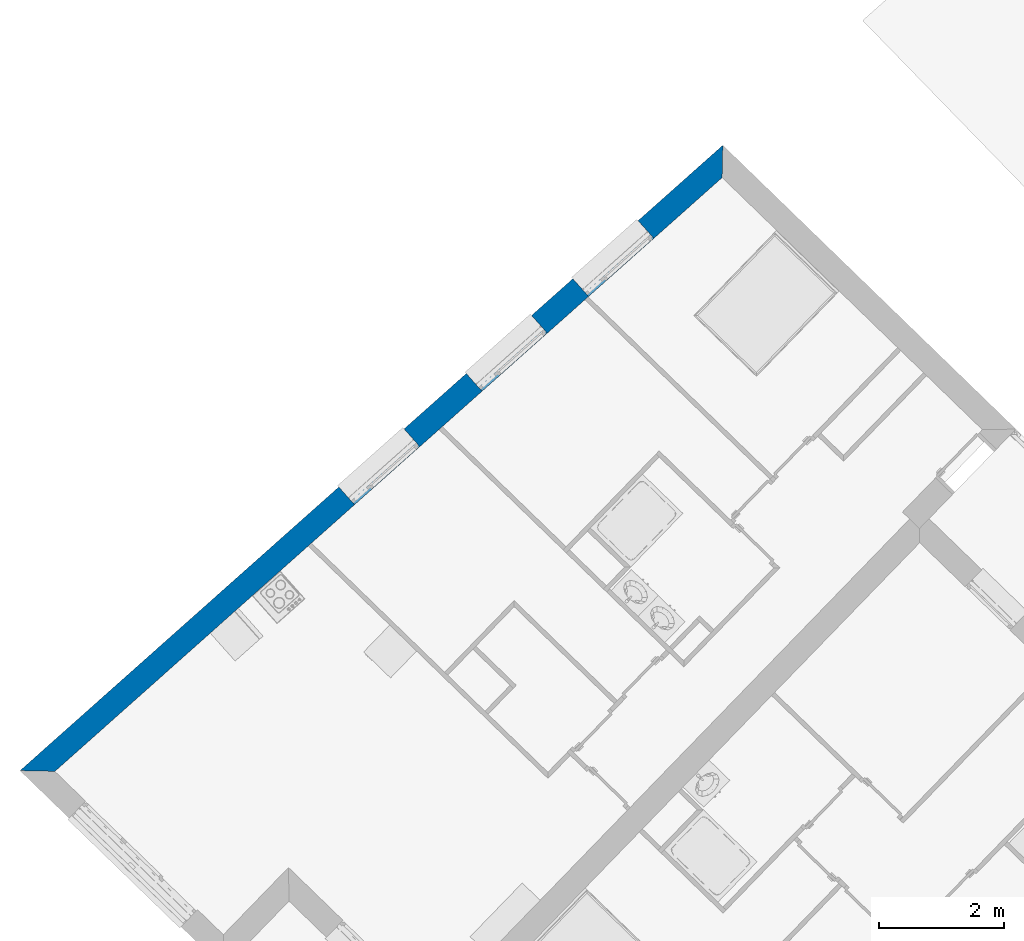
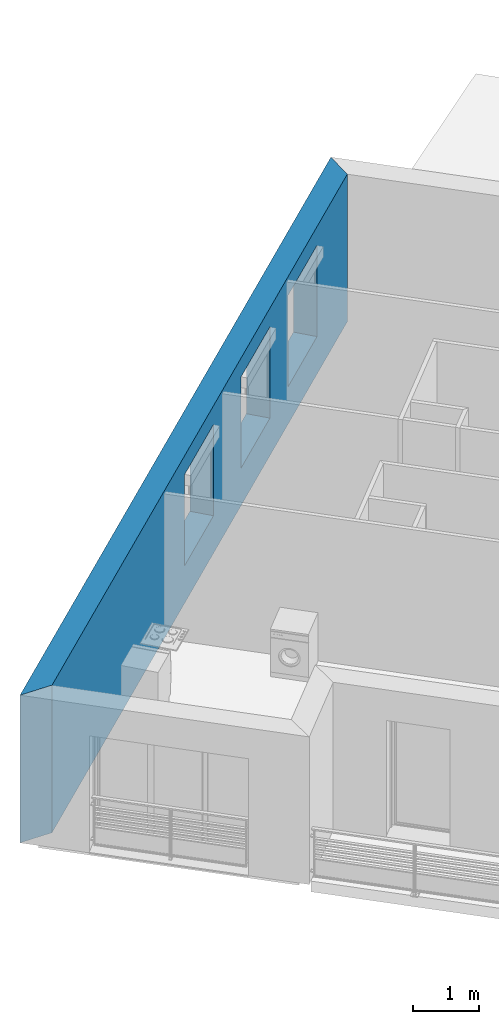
# One storey, part 14 of 121: 1 wall, 3 openings.
"""IFC2X3 building model written with IfcOpenShell, lengths in metres."""

import ifcopenshell
import ifcopenshell.guid

model = None  # the IFC model being written
_history = None  # IfcOwnerHistory: only IFC2X3 demands one
_inside = {}  # id of a spatial element -> (the spatial element, [elements in it])
_under = {}  # id of a project, library or spatial element -> (it, [spatial elements below it])
_declared = {}  # id of a project -> (the project, [libraries it declares])
_typed = {}  # id of a type object -> (the type object, [elements of that type])
_made_of = {}  # id of a material, layer set ... -> (it, [elements and type objects made of it])


def new_model(schema):
    """Start an empty IFC model of exactly this schema.

    Asked for "IFC4X3", IfcOpenShell would pick the latest addendum, in which some entities
    have other attributes; the version numbers below select the first issue.
    IFC2X3 requires an IfcOwnerHistory on every rooted entity: one is made here for all.
    """
    global model, _history
    if schema == "IFC4X3":
        model = ifcopenshell.file(schema_version=(4, 3, 0, 0))
    else:
        model = ifcopenshell.file(schema=schema)
    _inside.clear()
    _under.clear()
    _declared.clear()
    _typed.clear()
    _made_of.clear()
    _history = None
    if model.schema == "IFC2X3":
        org = make("IfcOrganization", Name="unknown")
        user = make(
            "IfcPersonAndOrganization",
            ThePerson=make("IfcPerson", FamilyName="unknown"),
            TheOrganization=org,
        )
        app = make(
            "IfcApplication",
            ApplicationDeveloper=org,
            Version="unknown",
            ApplicationFullName="unknown",
            ApplicationIdentifier="unknown",
        )
        _history = make(
            "IfcOwnerHistory",
            OwningUser=user,
            OwningApplication=app,
            ChangeAction="ADDED",
            CreationDate=0,
        )
    return model


def make(cls, **values):
    """One entity of the class cls with the attributes given. An attribute that is None is left unset."""
    return model.create_entity(
        cls, **{name: value for name, value in values.items() if value is not None}
    )


def entity(cls, *values):
    """Any entity or typed value of the class cls, its attributes in the order of the schema. None: left unset."""
    e = model.create_entity(cls)
    for i, value in enumerate(values):
        if value is not None:
            e[i] = value
    return e


def rooted(cls, **values):
    """An entity with a GlobalId (a new one), such as an element, a storey or a relation."""
    return make(cls, GlobalId=ifcopenshell.guid.new(), OwnerHistory=_history, **values)


def si_unit(unit_type, name, prefix=None):
    """IfcSIUnit, for example si_unit("LENGTHUNIT", "METRE", prefix="MILLI")."""
    return make("IfcSIUnit", UnitType=unit_type, Prefix=prefix, Name=name)


def converted_unit(unit_type, name, factor, base, dimensions=None, offset=None):
    """IfcConversionBasedUnit, such as the inch: factor (a typed value) times the base unit."""
    return make(
        "IfcConversionBasedUnit"
        if offset is None
        else "IfcConversionBasedUnitWithOffset",
        ConversionOffset=offset,
        Dimensions=None
        if dimensions is None
        else entity("IfcDimensionalExponents", *dimensions),
        UnitType=unit_type,
        Name=name,
        ConversionFactor=make(
            "IfcMeasureWithUnit", ValueComponent=factor, UnitComponent=base
        ),
    )


def derived_unit(unit_type, elements):
    """IfcDerivedUnit: a product of units, each with its exponent."""
    return make(
        "IfcDerivedUnit",
        Elements=[
            make("IfcDerivedUnitElement", Unit=unit, Exponent=power)
            for unit, power in elements
        ],
        UnitType=unit_type,
    )


def money_unit(currency):
    """IfcMonetaryUnit."""
    return make("IfcMonetaryUnit", Currency=currency)


def assignment(units):
    """IfcUnitAssignment: the units of a project."""
    return None if units is None else make("IfcUnitAssignment", Units=units)


def point(xyz):
    """IfcCartesianPoint."""
    return None if xyz is None else make("IfcCartesianPoint", Coordinates=xyz)


def direction(xyz):
    """IfcDirection."""
    return None if xyz is None else make("IfcDirection", DirectionRatios=xyz)


def frame(location, z_axis=None, x_axis=None):
    """IfcAxis2Placement3D, a coordinate frame: its origin and axes. An axis left out is left unset."""
    return make(
        "IfcAxis2Placement3D",
        Location=point(location),
        Axis=direction(z_axis),
        RefDirection=direction(x_axis),
    )


def origin_with_axes():
    """The frame at (0, 0, 0) with the z axis (0, 0, 1) and the x axis (1, 0, 0) written out."""
    return frame((0.0, 0.0, 0.0), z_axis=(0.0, 0.0, 1.0), x_axis=(1.0, 0.0, 0.0))


def place(relative_to, where):
    """IfcLocalPlacement: puts the frame where relative to a parent placement (None: the world)."""
    return make(
        "IfcLocalPlacement", PlacementRelTo=relative_to, RelativePlacement=where
    )


def context(
    kind, dimensions, precision=None, world=None, true_north=None, identifier=None
):
    """IfcGeometricRepresentationContext, for example the 3D "Model" context."""
    return make(
        "IfcGeometricRepresentationContext",
        ContextIdentifier=identifier,
        ContextType=kind,
        CoordinateSpaceDimension=dimensions,
        Precision=precision,
        WorldCoordinateSystem=world,
        TrueNorth=true_north,
    )


def subcontext(parent, identifier, kind, view, scale=None):
    """IfcGeometricRepresentationSubContext, for example "Body" below "Model"."""
    return make(
        "IfcGeometricRepresentationSubContext",
        ContextIdentifier=identifier,
        ContextType=kind,
        ParentContext=parent,
        TargetScale=scale,
        TargetView=view,
    )


def project(units=None, contexts=None):
    """IfcProject with its units and contexts."""
    return rooted(
        "IfcProject",
        Name="project",
        RepresentationContexts=contexts,
        UnitsInContext=assignment(units),
    )


def spatial(cls, under=None, at=None, **own):
    """A site, building, storey or space (cls), placed at a placement, below another one or the project."""
    s = rooted(cls, ObjectPlacement=at, **own)
    if under is not None:
        _under.setdefault(under.id(), (under, []))[1].append(s)
    return s


def polyline(points):
    """IfcPolyline through the points."""
    return make("IfcPolyline", Points=[point(p) for p in points])


def outline(outer, holes=None, kind="AREA"):
    """IfcArbitraryClosedProfileDef: a profile drawn as a closed curve; with holes, ...WithVoids."""
    if holes is None:
        return make("IfcArbitraryClosedProfileDef", ProfileType=kind, OuterCurve=outer)
    return make(
        "IfcArbitraryProfileDefWithVoids",
        ProfileType=kind,
        OuterCurve=outer,
        InnerCurves=holes,
    )


def extrude(swept, where, along, depth):
    """IfcExtrudedAreaSolid: the profile swept, set in the frame where, extruded along a direction by depth."""
    return make(
        "IfcExtrudedAreaSolid",
        SweptArea=swept,
        Position=where,
        ExtrudedDirection=direction(along),
        Depth=depth,
    )


def faces_of(points, faces, orient=None, outer=None):
    """IfcFace entities. A face is a list of loops; a loop is a list of indices into points, from 0.

    orient and outer hold one flag for each loop. By default every Orientation is true, the
    first loop of a face is its IfcFaceOuterBound and the others are IfcFaceBound.
    """
    made = []
    for i, loops in enumerate(faces):
        bounds = []
        for j, loop in enumerate(loops):
            is_outer = j == 0 if outer is None else outer[i][j]
            bounds.append(
                make(
                    "IfcFaceOuterBound" if is_outer else "IfcFaceBound",
                    Bound=make("IfcPolyLoop", Polygon=[points[k] for k in loop]),
                    Orientation=True if orient is None else orient[i][j],
                )
            )
        made.append(make("IfcFace", Bounds=bounds))
    return made


def faceted_brep(points, faces, orient=None, outer=None, voids=None):
    """IfcFacetedBrep: a solid bounded by flat faces; with voids (closed shells), ...WithVoids."""
    shared = [point(p) for p in points]
    hull = make("IfcClosedShell", CfsFaces=faces_of(shared, faces, orient, outer))
    if voids is None:
        return make("IfcFacetedBrep", Outer=hull)
    return make(
        "IfcFacetedBrepWithVoids",
        Outer=hull,
        Voids=[
            make(cls, CfsFaces=faces_of(shared, fs, o, b)) for cls, fs, o, b in voids
        ],
    )


def shape(context_of_items, identifier, shape_type, items):
    """IfcShapeRepresentation: the items that make up one representation, for example the "Body"."""
    return make(
        "IfcShapeRepresentation",
        ContextOfItems=context_of_items,
        RepresentationIdentifier=identifier,
        RepresentationType=shape_type,
        Items=items,
    )


def material(Name=None, Category=None):
    """IfcMaterial."""
    return make("IfcMaterial", Name=Name, Category=Category)


def layer(
    of_material, thickness, ventilated=None, Name=None, Category=None, Priority=None
):
    """IfcMaterialLayer: one layer of a wall or slab, of a material (None: an air gap)."""
    return make(
        "IfcMaterialLayer",
        Material=of_material,
        LayerThickness=thickness,
        IsVentilated=ventilated,
        Name=Name,
        Category=Category,
        Priority=Priority,
    )


def layer_set(layers, Name=None):
    """IfcMaterialLayerSet."""
    return make("IfcMaterialLayerSet", MaterialLayers=layers, LayerSetName=Name)


def layer_usage(for_layer_set, set_direction, sense, offset, extent=None):
    """IfcMaterialLayerSetUsage: how a layer set lies in its element."""
    return make(
        "IfcMaterialLayerSetUsage",
        ForLayerSet=for_layer_set,
        LayerSetDirection=set_direction,
        DirectionSense=sense,
        OffsetFromReferenceLine=offset,
        ReferenceExtent=extent,
    )


def made_of(thing, what):
    """Note that an element or type object is made of a material, layer set ...; save() writes the relation."""
    if what is not None:
        _made_of.setdefault(what.id(), (what, []))[1].append(thing)
    return thing


def type_object(cls, material=None, **own):
    """A type object (cls), such as IfcWallType, which elements share."""
    return made_of(rooted(cls, **own), material)


def element(
    cls,
    number,
    at=None,
    inside=None,
    cuts=None,
    type_object=None,
    material=None,
    context=None,
    identifier="Body",
    shape_type=None,
    held_by="IfcProductDefinitionShape",
    body=None,
    shapes=None,
    **own,
):
    """One element of the class cls, such as IfcWall. Its Tag is "e" and its number.

    at: its placement. inside: the storey or other place that contains it. cuts: it is an
    opening in that element (IfcRelVoidsElement). A single representation is given by context,
    identifier, shape_type and body (its items); several are given by shapes. held_by: the class
    of the entity that holds the representations. save() writes the other relations.
    """
    e = rooted(cls, Tag="e%d" % number, ObjectPlacement=at, **own)
    if body is not None:
        shapes = [shape(context, identifier, shape_type, body)]
    if shapes is not None:
        e.Representation = make(held_by, Representations=shapes)
    if inside is not None:
        _inside.setdefault(inside.id(), (inside, []))[1].append(e)
    if cuts is not None:
        rooted(
            "IfcRelVoidsElement", RelatingBuildingElement=cuts, RelatedOpeningElement=e
        )
    if type_object is not None:
        _typed.setdefault(type_object.id(), (type_object, []))[1].append(e)
    return made_of(e, material)


def aggregate(whole, parts):
    """IfcRelAggregates: a whole, such as a stair, and the parts it consists of."""
    return rooted("IfcRelAggregates", RelatingObject=whole, RelatedObjects=parts)


def save(model, path):
    """Write the relations noted so far, then the file.

    IfcRelAggregates (storeys below a building ...), IfcRelContainedInSpatialStructure (elements
    in a storey), IfcRelDefinesByType, IfcRelAssociatesMaterial and IfcRelDeclares: one each for
    every whole, place, type object, material and project.
    """
    for whole, parts in _under.values():
        aggregate(whole, parts)
    for where, things in _inside.values():
        rooted(
            "IfcRelContainedInSpatialStructure",
            RelatedElements=things,
            RelatingStructure=where,
        )
    for kind, things in _typed.values():
        rooted("IfcRelDefinesByType", RelatedObjects=things, RelatingType=kind)
    for what, things in _made_of.values():
        rooted("IfcRelAssociatesMaterial", RelatedObjects=things, RelatingMaterial=what)
    for by, libraries in _declared.values():
        rooted("IfcRelDeclares", RelatingContext=by, RelatedDefinitions=libraries)
    model.write(path)


model = new_model("IFC2X3")

# Units and contexts
model_context = context("Model", 3, precision=1e-05, world=origin_with_axes(), true_north=direction((0.0, 1.0)))
body_context = subcontext(model_context, "Body", "Model", "MODEL_VIEW")
ifc_project = project(units=[si_unit("LENGTHUNIT", "METRE"), si_unit("AREAUNIT", "SQUARE_METRE"), si_unit("VOLUMEUNIT", "CUBIC_METRE"), converted_unit("PLANEANGLEUNIT", "DEGREE", entity("IfcPlaneAngleMeasure", 0.0174532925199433), si_unit("PLANEANGLEUNIT", "RADIAN"), dimensions=[0, 0, 0, 0, 0, 0, 0]), money_unit("CHF"), converted_unit("TIMEUNIT", "Year", entity("IfcTimeMeasure", 31557600.0), si_unit("TIMEUNIT", "SECOND"), dimensions=[0, 0, 1, 0, 0, 0, 0]), si_unit("MASSUNIT", "GRAM", prefix="KILO"), si_unit("THERMODYNAMICTEMPERATUREUNIT", "DEGREE_CELSIUS"), si_unit("LUMINOUSINTENSITYUNIT", "LUMEN"), si_unit("ENERGYUNIT", "JOULE", prefix="MEGA"), derived_unit("THERMALCONDUCTANCEUNIT", [(si_unit("POWERUNIT", "WATT"), 1), (si_unit("LENGTHUNIT", "METRE"), -1), (si_unit("THERMODYNAMICTEMPERATUREUNIT", "KELVIN"), -1)]), derived_unit("SPECIFICHEATCAPACITYUNIT", [(si_unit("ENERGYUNIT", "JOULE"), 1), (si_unit("MASSUNIT", "GRAM", prefix="KILO"), -1), (si_unit("THERMODYNAMICTEMPERATUREUNIT", "KELVIN"), -1)]), derived_unit("MASSDENSITYUNIT", [(si_unit("MASSUNIT", "GRAM", prefix="KILO"), 1), (si_unit("VOLUMEUNIT", "CUBIC_METRE"), -1)])], contexts=[model_context])

# Site, building, storey
site_placement = place(None, origin_with_axes())
site = spatial("IfcSite", under=ifc_project, at=site_placement, Name="Site", CompositionType="ELEMENT")
building_placement = place(site_placement, origin_with_axes())
building = spatial("IfcBuilding", under=site, at=building_placement, Name="Bâtiment", CompositionType="ELEMENT")
storey_placement = place(building_placement, frame((0.0, 0.0, 2.75), z_axis=(0.0, 0.0, 1.0), x_axis=(1.0, 0.0, 0.0)))
storey = spatial("IfcBuildingStorey", under=building, at=storey_placement, Name="Etage 1", CompositionType="ELEMENT", Elevation=2.75)

# Wall, openings
ifc_material_1 = material(Name="Parpaing 312445824")
ifc_layer_1 = layer(ifc_material_1, 0.22, ventilated="UNKNOWN")
ifc_material_2 = material(Name="Isolant styromousse 301821074")
ifc_layer_2 = layer(ifc_material_2, 0.16, ventilated="UNKNOWN")
ifc_layer_set = layer_set([ifc_layer_1, ifc_layer_2], Name="isol int 22+16 0836643197")
ifc_layer_usage = layer_usage(ifc_layer_set, "AXIS2", "POSITIVE", 0.0)
wall_type = type_object("IfcWallType", Name="isol int 22+16 0836643197 380", PredefinedType="NOTDEFINED")
wall_placement = place(storey_placement, frame((9522.52805632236, -1052.392567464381, 57.7), z_axis=(0.0, 0.0, 1.0), x_axis=(-0.7470589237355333, -0.6647578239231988, 0.0)))
wall = element("IfcWallStandardCase", 1, at=wall_placement, inside=storey, type_object=wall_type, material=ifc_layer_usage, Name="Mur-113", context=body_context, shape_type="SweptSolid", body=[
    extrude(outline(polyline([(0.0, 0.0), (15.08442376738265, 0.0), (14.67520601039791, 0.3799999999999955), (0.3528683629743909, 0.3799999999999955), (0.0, 0.0)])), origin_with_axes(), (0.0, 0.0, 1.0), 2.75),
])
opening_1_placement = place(wall_placement, frame((4.805911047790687, 0.0, 0.7000000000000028), z_axis=(0.0, 0.0, 1.0), x_axis=(1.0, 0.0, 0.0)))
element("IfcOpeningElement", 2, at=opening_1_placement, cuts=wall, Name="Fen-045", context=body_context, shape_type="Brep", body=[
    faceted_brep([(-0.6999999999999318, 0.2999999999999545, 1.5), (-0.6999999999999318, 0.4800000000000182, 1.5), (-0.6999999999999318, 7.872124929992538, 1.5), (-0.6999999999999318, 7.872124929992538, 0.0), (-0.6999999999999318, 0.2999999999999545, 0.0), (-0.6999999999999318, 0.2200000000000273, 1.5), (-0.6999999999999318, 0.2200000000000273, 1.700000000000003), (-0.6999999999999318, 0.4800000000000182, 1.700000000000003), (0.7000000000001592, 0.4799999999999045, 1.5), (0.7000000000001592, 7.872124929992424, 1.5), (0.7000000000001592, 7.872124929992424, 0.0), (0.7000000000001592, 0.2999999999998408, 0.0), (-0.6999999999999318, -7.492124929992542, 0.0), (-0.6999999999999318, -7.492124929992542, 1.5), (0.7000000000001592, 0.2199999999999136, 1.5), (0.7000000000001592, 0.2199999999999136, 1.700000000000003), (0.7000000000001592, 0.4799999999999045, 1.700000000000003), (0.7000000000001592, 0.2999999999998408, 1.5), (0.7000000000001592, -7.492124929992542, 0.0), (0.7000000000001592, -7.492124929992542, 1.5)], [[[0, 1, 2, 3, 4]], [[1, 0, 5, 6, 7]], [[1, 8, 9, 2]], [[9, 10, 3, 2]], [[11, 4, 3, 10]], [[5, 0, 4, 12, 13]], [[5, 14, 15, 6]], [[15, 16, 7, 6]], [[8, 1, 7, 16]], [[8, 17, 11, 10, 9]], [[4, 11, 18, 12]], [[13, 12, 18, 19]], [[14, 5, 13, 19]], [[17, 8, 16, 15, 14]], [[17, 14, 19, 18, 11]]]),
])
opening_2_placement = place(wall_placement, frame((2.519663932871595, 0.0, 0.7000000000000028), z_axis=(0.0, 0.0, 1.0), x_axis=(1.0, 0.0, 0.0)))
element("IfcOpeningElement", 3, at=opening_2_placement, cuts=wall, Name="Fen-045", context=body_context, shape_type="Brep", body=[
    faceted_brep([(-0.7000000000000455, 0.2999999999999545, 1.5), (-0.7000000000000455, 0.4800000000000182, 1.5), (-0.7000000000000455, 7.872124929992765, 1.5), (-0.7000000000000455, 7.872124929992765, 0.0), (-0.7000000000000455, 0.2999999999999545, 0.0), (-0.7000000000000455, 0.2200000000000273, 1.5), (-0.7000000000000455, 0.2200000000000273, 1.700000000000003), (-0.7000000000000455, 0.4800000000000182, 1.700000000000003), (0.6999999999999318, 0.4800000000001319, 1.5), (0.7000000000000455, 7.872124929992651, 1.5), (0.7000000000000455, 7.872124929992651, 0.0), (0.7000000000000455, 0.3000000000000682, 0.0), (-0.7000000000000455, -7.492124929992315, 0.0), (-0.7000000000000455, -7.492124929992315, 1.5), (0.7000000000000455, 0.2200000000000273, 1.5), (0.7000000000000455, 0.2200000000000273, 1.700000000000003), (0.6999999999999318, 0.4800000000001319, 1.700000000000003), (0.6999999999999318, 0.2999999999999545, 1.5), (0.6999999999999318, -7.492124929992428, 0.0), (0.6999999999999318, -7.492124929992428, 1.5)], [[[0, 1, 2, 3, 4]], [[1, 0, 5, 6, 7]], [[1, 8, 9, 2]], [[9, 10, 3, 2]], [[11, 4, 3, 10]], [[5, 0, 4, 12, 13]], [[5, 14, 15, 6]], [[15, 16, 7, 6]], [[8, 1, 7, 16]], [[8, 17, 11, 10, 9]], [[4, 11, 18, 12]], [[13, 12, 18, 19]], [[14, 5, 13, 19]], [[17, 8, 16, 15, 14]], [[17, 14, 19, 18, 11]]]),
])
opening_3_placement = place(wall_placement, frame((7.542141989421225, 0.0, 0.7000000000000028), z_axis=(0.0, 0.0, 1.0), x_axis=(1.0, 0.0, 0.0)))
element("IfcOpeningElement", 4, at=opening_3_placement, cuts=wall, Name="Fen-045", context=body_context, shape_type="Brep", body=[
    faceted_brep([(-0.6999999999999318, 0.2999999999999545, 1.5), (-0.7000000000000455, 0.4800000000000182, 1.5), (-0.6999999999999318, 7.872124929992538, 1.5), (-0.6999999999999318, 7.872124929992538, 0.0), (-0.6999999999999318, 0.2999999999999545, 0.0), (-0.7000000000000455, 0.2200000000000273, 1.5), (-0.7000000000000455, 0.2200000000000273, 1.700000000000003), (-0.7000000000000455, 0.4800000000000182, 1.700000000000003), (0.6999999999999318, 0.4800000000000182, 1.5), (0.7000000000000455, 7.872124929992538, 1.5), (0.7000000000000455, 7.872124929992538, 0.0), (0.7000000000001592, 0.2999999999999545, 0.0), (-0.7000000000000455, -7.492124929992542, 0.0), (-0.7000000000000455, -7.492124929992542, 1.5), (0.7000000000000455, 0.2200000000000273, 1.5), (0.7000000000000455, 0.2200000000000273, 1.700000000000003), (0.6999999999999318, 0.4800000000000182, 1.700000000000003), (0.7000000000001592, 0.2999999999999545, 1.5), (0.6999999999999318, -7.492124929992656, 0.0), (0.6999999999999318, -7.492124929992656, 1.5)], [[[0, 1, 2, 3, 4]], [[1, 0, 5, 6, 7]], [[1, 8, 9, 2]], [[9, 10, 3, 2]], [[11, 4, 3, 10]], [[5, 0, 4, 12, 13]], [[5, 14, 15, 6]], [[15, 16, 7, 6]], [[8, 1, 7, 16]], [[8, 17, 11, 10, 9]], [[4, 11, 18, 12]], [[13, 12, 18, 19]], [[14, 5, 13, 19]], [[17, 8, 16, 15, 14]], [[17, 14, 19, 18, 11]]]),
])

save(model, "model.ifc")
